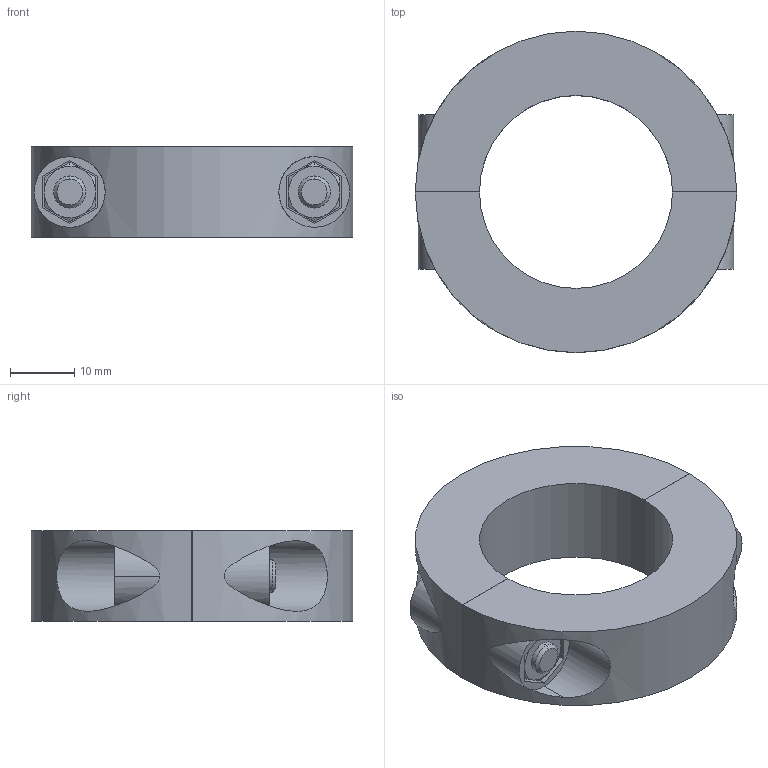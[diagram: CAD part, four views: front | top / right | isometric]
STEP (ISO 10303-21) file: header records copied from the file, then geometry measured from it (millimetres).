
FILE_DESCRIPTION (( 'STEP AP214' ), '1' );
FILE_NAME ('707.5-50-B30-SG.step', '2023-02-15T09:02:53', ( '' ), ( '' ), 'SwSTEP 2.0', 'SolidWorks 2022', '' );
FILE_SCHEMA (( 'AUTOMOTIVE_DESIGN' ));
Length unit declared in the file: millimetre
Products named in the file (1): 707.5-50-B30-SG
Bounding box: 50 x 50 x 14 mm (x, y, z)
Volume: 16008.8 mm3; surface area: 8622.5 mm2
Topology: 1 solids, 3 shells, 158 faces, 366 edges, 232 vertices
Faces by surface type: plane 84, cylinder 38, cone 32, torus 4
Entity records: 5698 total; most frequent: CARTESIAN_POINT 1329, ORIENTED_EDGE 732, DIRECTION 708, EDGE_CURVE 366, AXIS2_PLACEMENT_3D 257, VERTEX_POINT 232, LINE 194, VECTOR 194
